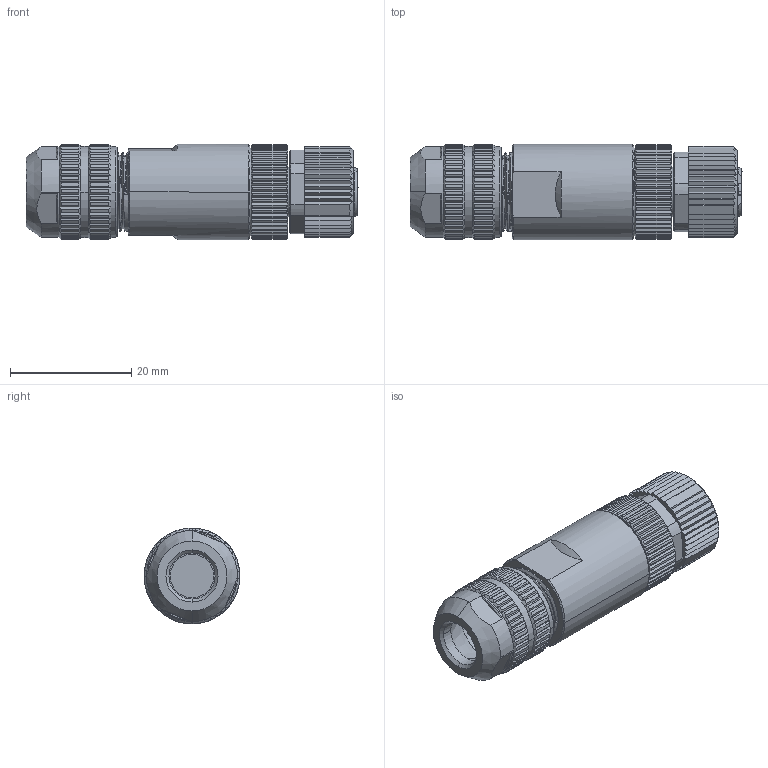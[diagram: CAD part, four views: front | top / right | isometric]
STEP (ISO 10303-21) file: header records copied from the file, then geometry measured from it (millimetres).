
FILE_DESCRIPTION (( 'STEP AP203' ), '1' );
FILE_NAME ('0CF421.STEP', '2023-08-18T11:39:36', ( '' ), ( '' ), 'SwSTEP 2.0', 'SolidWorks 2016', '' );
FILE_SCHEMA (( 'CONFIG_CONTROL_DESIGN' ));
Length unit declared in the file: millimetre
Products named in the file (1): 0CF421
Bounding box: 54.72 x 15.8 x 15.8 mm (x, y, z)
Volume: 7629.1 mm3; surface area: 6216.6 mm2
Topology: 1 solids, 2 shells, 1111 faces, 3229 edges, 2165 vertices
Faces by surface type: plane 503, cylinder 306, cone 185, bspline 117
Entity records: 93641 total; most frequent: CARTESIAN_POINT 66315, ORIENTED_EDGE 6458, DIRECTION 4729, EDGE_CURVE 3229, VERTEX_POINT 2165, AXIS2_PLACEMENT_3D 1737, LINE 1255, VECTOR 1255
